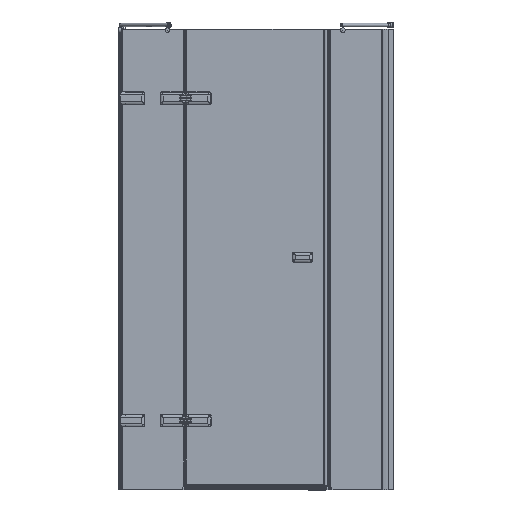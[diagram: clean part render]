
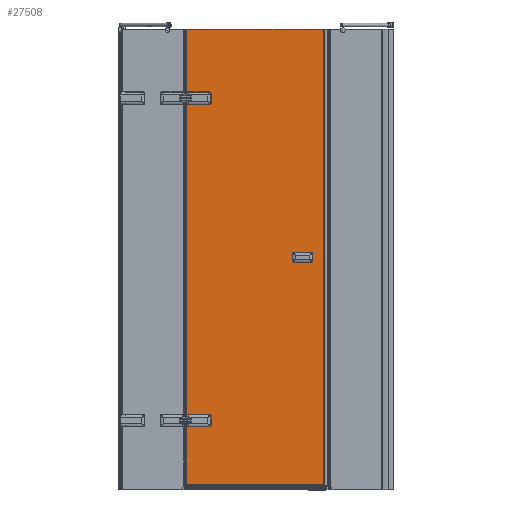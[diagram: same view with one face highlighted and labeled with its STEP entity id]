
A CAD part, front view. The second image highlights one B-rep face of the part: STEP entity #27508.
In plain terms, the highlighted planar face has unit normal (0, -1, 0).
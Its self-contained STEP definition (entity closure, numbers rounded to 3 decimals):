
#1009=LINE($,#56380,#3367);
#1013=LINE($,#56392,#3371);
#1017=LINE($,#56403,#3375);
#1723=LINE($,#59603,#4081);
#1727=LINE($,#59615,#4085);
#1731=LINE($,#59626,#4089);
#1817=LINE($,#60572,#4175);
#2361=LINE($,#62583,#4719);
#2370=LINE($,#62604,#4728);
#2371=LINE($,#62606,#4729);
#2372=LINE($,#62607,#4730);
#2373=LINE($,#62608,#4731);
#3367=VECTOR($,#32401,96.);
#3371=VECTOR($,#32413,42.);
#3375=VECTOR($,#32425,96.);
#4081=VECTOR($,#34403,96.);
#4085=VECTOR($,#34415,42.);
#4089=VECTOR($,#34427,96.);
#4175=VECTOR($,#34823,594.147);
#4719=VECTOR($,#36127,277.43);
#4728=VECTOR($,#36158,252.83);
#4729=VECTOR($,#36159,594.147);
#4730=VECTOR($,#36160,1975.4);
#4731=VECTOR($,#36161,1354.861);
#7215=FACE_OUTER_BOUND($,#8872,.T.);
#8872=EDGE_LOOP($,(#22454,#22455,#22456,#22457,#22458,#22459,#22460,#22461,
#22462,#22463,#22464,#22465,#22466,#22467,#22468,#22469,#22470,#22471,#22472,
#22473));
#9525=CIRCLE($,#28530,5.);
#9526=CIRCLE($,#28532,5.);
#9564=CIRCLE($,#28609,5.);
#9566=CIRCLE($,#28613,5.);
#9775=CIRCLE($,#29176,5.);
#9776=CIRCLE($,#29178,5.);
#9813=CIRCLE($,#29253,5.);
#9815=CIRCLE($,#29257,5.);
#10865=VERTEX_POINT($,#56036);
#10867=VERTEX_POINT($,#56047);
#10869=VERTEX_POINT($,#56052);
#10870=VERTEX_POINT($,#56061);
#10983=VERTEX_POINT($,#56379);
#10985=VERTEX_POINT($,#56385);
#10987=VERTEX_POINT($,#56391);
#10989=VERTEX_POINT($,#56397);
#11553=VERTEX_POINT($,#59269);
#11555=VERTEX_POINT($,#59280);
#11557=VERTEX_POINT($,#59285);
#11558=VERTEX_POINT($,#59294);
#11668=VERTEX_POINT($,#59602);
#11670=VERTEX_POINT($,#59608);
#11672=VERTEX_POINT($,#59614);
#11674=VERTEX_POINT($,#59620);
#11787=VERTEX_POINT($,#60569);
#11788=VERTEX_POINT($,#60571);
#12279=VERTEX_POINT($,#62603);
#12280=VERTEX_POINT($,#62605);
#13626=EDGE_CURVE($,#10867,#10865,#9525,.T.);
#13628=EDGE_CURVE($,#10869,#10870,#9526,.T.);
#13787=EDGE_CURVE($,#10870,#10983,#1009,.T.);
#13790=EDGE_CURVE($,#10983,#10985,#9564,.T.);
#13793=EDGE_CURVE($,#10985,#10987,#1013,.T.);
#13796=EDGE_CURVE($,#10987,#10989,#9566,.T.);
#13799=EDGE_CURVE($,#10989,#10867,#1017,.T.);
#14703=EDGE_CURVE($,#11555,#11553,#9775,.T.);
#14705=EDGE_CURVE($,#11557,#11558,#9776,.T.);
#14858=EDGE_CURVE($,#11558,#11668,#1723,.T.);
#14861=EDGE_CURVE($,#11668,#11670,#9813,.T.);
#14864=EDGE_CURVE($,#11670,#11672,#1727,.T.);
#14867=EDGE_CURVE($,#11672,#11674,#9815,.T.);
#14870=EDGE_CURVE($,#11674,#11555,#1731,.T.);
#15055=EDGE_CURVE($,#11788,#11787,#1817,.T.);
#15784=EDGE_CURVE($,#11553,#11787,#2361,.T.);
#15793=EDGE_CURVE($,#12279,#10869,#2370,.T.);
#15794=EDGE_CURVE($,#12280,#12279,#2371,.T.);
#15795=EDGE_CURVE($,#11788,#12280,#2372,.T.);
#15796=EDGE_CURVE($,#10865,#11557,#2373,.T.);
#22454=ORIENTED_EDGE($,*,*,#13626,.F.);
#22455=ORIENTED_EDGE($,*,*,#13799,.F.);
#22456=ORIENTED_EDGE($,*,*,#13796,.F.);
#22457=ORIENTED_EDGE($,*,*,#13793,.F.);
#22458=ORIENTED_EDGE($,*,*,#13790,.F.);
#22459=ORIENTED_EDGE($,*,*,#13787,.F.);
#22460=ORIENTED_EDGE($,*,*,#13628,.F.);
#22461=ORIENTED_EDGE($,*,*,#15793,.F.);
#22462=ORIENTED_EDGE($,*,*,#15794,.F.);
#22463=ORIENTED_EDGE($,*,*,#15795,.F.);
#22464=ORIENTED_EDGE($,*,*,#15055,.T.);
#22465=ORIENTED_EDGE($,*,*,#15784,.F.);
#22466=ORIENTED_EDGE($,*,*,#14703,.F.);
#22467=ORIENTED_EDGE($,*,*,#14870,.F.);
#22468=ORIENTED_EDGE($,*,*,#14867,.F.);
#22469=ORIENTED_EDGE($,*,*,#14864,.F.);
#22470=ORIENTED_EDGE($,*,*,#14861,.F.);
#22471=ORIENTED_EDGE($,*,*,#14858,.F.);
#22472=ORIENTED_EDGE($,*,*,#14705,.F.);
#22473=ORIENTED_EDGE($,*,*,#15796,.F.);
#24715=PLANE($,#29805);
#27508=ADVANCED_FACE($,(#7215),#24715,.F.);
#28530=AXIS2_PLACEMENT_3D($,#56049,#32128,#32129);
#28532=AXIS2_PLACEMENT_3D($,#56062,#32132,#32133);
#28609=AXIS2_PLACEMENT_3D($,#56386,#32406,#32407);
#28613=AXIS2_PLACEMENT_3D($,#56398,#32418,#32419);
#29176=AXIS2_PLACEMENT_3D($,#59282,#34139,#34140);
#29178=AXIS2_PLACEMENT_3D($,#59295,#34143,#34144);
#29253=AXIS2_PLACEMENT_3D($,#59609,#34408,#34409);
#29257=AXIS2_PLACEMENT_3D($,#59621,#34420,#34421);
#29805=AXIS2_PLACEMENT_3D($,#62602,#36156,#36157);
#32128=DIRECTION('center_axis',(0.,-1.,0.));
#32129=DIRECTION('ref_axis',(1.,0.,0.));
#32132=DIRECTION('center_axis',(0.,-1.,0.));
#32133=DIRECTION('ref_axis',(0.,0.,
1.));
#32401=DIRECTION($,(1.,0.,0.));
#32406=DIRECTION('center_axis',(0.,-1.,0.));
#32407=DIRECTION('ref_axis',(-1.,0.,0.));
#32413=DIRECTION($,(0.,0.,1.));
#32418=DIRECTION('center_axis',(0.,-1.,0.));
#32419=DIRECTION('ref_axis',(0.,0.,
-1.));
#32425=DIRECTION($,(-1.,0.,0.));
#34139=DIRECTION('center_axis',(0.,-1.,0.));
#34140=DIRECTION('ref_axis',(1.,0.,0.));
#34143=DIRECTION('center_axis',(0.,-1.,0.));
#34144=DIRECTION('ref_axis',(0.,0.,
1.));
#34403=DIRECTION($,(1.,0.,0.));
#34408=DIRECTION('center_axis',(0.,-1.,0.));
#34409=DIRECTION('ref_axis',(-1.,0.,0.));
#34415=DIRECTION($,(0.,0.,1.));
#34420=DIRECTION('center_axis',(0.,-1.,0.));
#34421=DIRECTION('ref_axis',(0.,0.,
-1.));
#34427=DIRECTION($,(-1.,0.,0.));
#34823=DIRECTION($,(-1.,0.,0.));
#36127=DIRECTION($,(0.,0.,1.));
#36156=DIRECTION('center_axis',(0.,1.,0.));
#36157=DIRECTION('ref_axis',(-1.,0.,0.));
#36158=DIRECTION($,(0.,0.,1.));
#36159=DIRECTION($,(-1.,0.,0.));
#36160=DIRECTION($,(0.,0.,-1.));
#36161=DIRECTION($,(0.,0.,1.));
#56036=CARTESIAN_POINT('',(1683.443,-34.044,-191.486));
#56047=CARTESIAN_POINT('',(1688.19,-34.044,-188.056));
#56049=CARTESIAN_POINT('Origin',(1688.19,-34.044,-193.056));
#56052=CARTESIAN_POINT('',(1683.443,-34.044,-236.625));
#56061=CARTESIAN_POINT('',(1688.19,-34.044,-240.056));
#56062=CARTESIAN_POINT('Origin',(1688.19,-34.044,-235.056));
#56379=CARTESIAN_POINT('',(1784.19,-34.044,-240.056));
#56380=CARTESIAN_POINT($,(2033.19,-34.044,-240.056));
#56385=CARTESIAN_POINT('',(1789.19,-34.044,-235.056));
#56386=CARTESIAN_POINT('Origin',(1784.19,-34.044,-235.056));
#56391=CARTESIAN_POINT('',(1789.19,-34.044,-193.056));
#56392=CARTESIAN_POINT($,(1789.19,-34.044,-343.556));
#56397=CARTESIAN_POINT('',(1784.19,-34.044,-188.056));
#56398=CARTESIAN_POINT('Origin',(1784.19,-34.044,-193.056));
#56403=CARTESIAN_POINT($,(1985.19,-34.044,-188.056));
#59269=CARTESIAN_POINT('',(1683.443,-34.044,1208.514));
#59280=CARTESIAN_POINT('',(1688.19,-34.044,1211.944));
#59282=CARTESIAN_POINT('Origin',(1688.19,-34.044,1206.944));
#59285=CARTESIAN_POINT('',(1683.443,-34.044,1163.375));
#59294=CARTESIAN_POINT('',(1688.19,-34.044,1159.944));
#59295=CARTESIAN_POINT('Origin',(1688.19,-34.044,1164.944));
#59602=CARTESIAN_POINT('',(1784.19,-34.044,1159.944));
#59603=CARTESIAN_POINT($,(2033.19,-34.044,1159.944));
#59608=CARTESIAN_POINT('',(1789.19,-34.044,1164.944));
#59609=CARTESIAN_POINT('Origin',(1784.19,-34.044,1164.944));
#59614=CARTESIAN_POINT('',(1789.19,-34.044,1206.944));
#59615=CARTESIAN_POINT($,(1789.19,-34.044,356.444));
#59620=CARTESIAN_POINT('',(1784.19,-34.044,1211.944));
#59621=CARTESIAN_POINT('Origin',(1784.19,-34.044,1206.944));
#59626=CARTESIAN_POINT($,(1985.19,-34.044,1211.944));
#60569=CARTESIAN_POINT('',(1683.443,-34.044,1485.944));
#60571=CARTESIAN_POINT('',(2277.59,-34.044,1485.944));
#60572=CARTESIAN_POINT($,(2282.19,-34.044,1485.944));
#62583=CARTESIAN_POINT($,(1683.443,-34.044,1195.944));
#62602=CARTESIAN_POINT('Origin',(2282.19,-34.044,-494.056));
#62603=CARTESIAN_POINT('',(1683.443,-34.044,-489.456));
#62604=CARTESIAN_POINT($,(1683.443,-34.044,-224.056));
#62605=CARTESIAN_POINT('',(2277.59,-34.044,-489.456));
#62606=CARTESIAN_POINT($,(2292.19,-34.044,-489.456));
#62607=CARTESIAN_POINT($,(2277.59,-34.044,1485.944));
#62608=CARTESIAN_POINT($,(1683.443,-34.044,-204.056));
